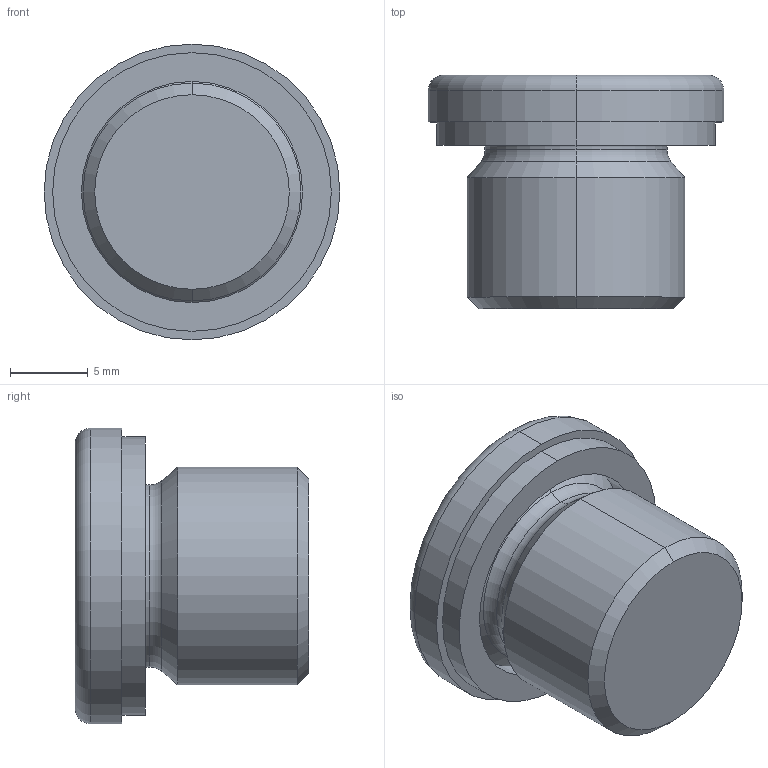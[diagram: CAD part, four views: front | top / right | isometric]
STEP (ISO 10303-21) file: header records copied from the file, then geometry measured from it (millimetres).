
FILE_DESCRIPTION (( 'STEP AP214' ), '1' );
FILE_NAME ('908-A4-M14x1,5-AC.step', '2024-12-19T09:18:49', ( '' ), ( '' ), 'SwSTEP 2.0', 'SolidWorks 2022', '' );
FILE_SCHEMA (( 'AUTOMOTIVE_DESIGN' ));
Length unit declared in the file: millimetre
Products named in the file (1): 908-A4-M14x1,5-AC
Bounding box: 19 x 15 x 19 mm (x, y, z)
Volume: 2494 mm3; surface area: 1535 mm2
Topology: 1 solids, 1 shells, 31 faces, 64 edges, 38 vertices
Faces by surface type: plane 11, cylinder 8, torus 6, cone 6
Entity records: 929 total; most frequent: DIRECTION 160, CARTESIAN_POINT 134, ORIENTED_EDGE 128, EDGE_CURVE 64, AXIS2_PLACEMENT_3D 64, VERTEX_POINT 38, EDGE_LOOP 34, CIRCLE 32
